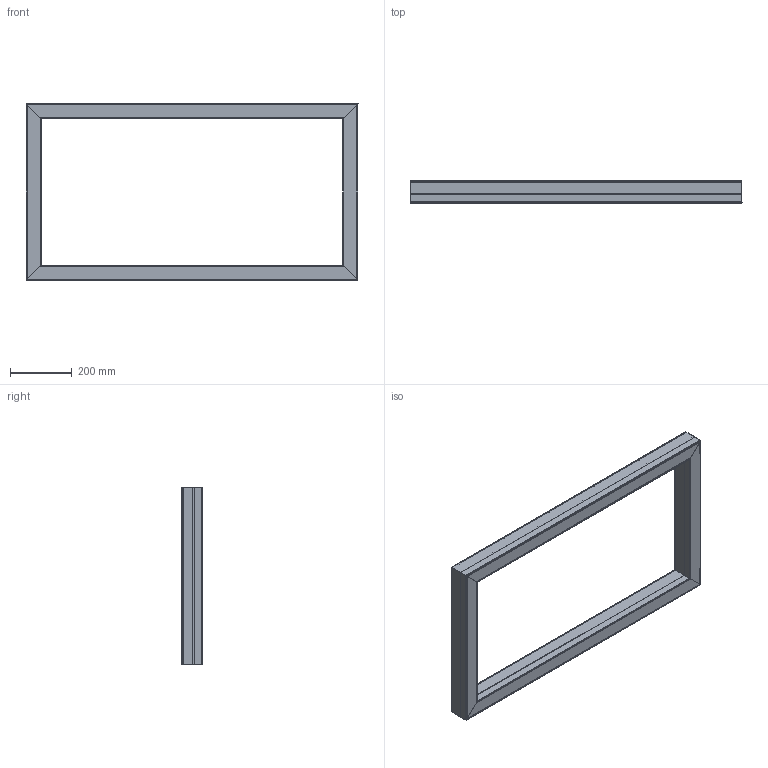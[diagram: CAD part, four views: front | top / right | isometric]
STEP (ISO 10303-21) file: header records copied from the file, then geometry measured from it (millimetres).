
FILE_DESCRIPTION(('STEP AP203'), '1');
FILE_NAME('Ìèêêî Ðåêîí 60Âò', '', ('UNSPECIFIED'), ('UNSPECIFIED'), 'ASCON STEP Converter 1.6', 'ASCON Math Kernel', '');
FILE_SCHEMA(('CONFIG_CONTROL_DESIGN'));
Length unit declared in the file: millimetre
Assembly tree (4 placements, depth 2):
  (unnamed)
    (unnamed)
    (unnamed)
    (unnamed)
    (unnamed)
Bounding box: 1071 x 70 x 571 mm (x, y, z)
Volume: 1338132.9 mm3; surface area: 2052902.6 mm2
Topology: 9 solids, 9 shells, 806 faces, 2359 edges, 1572 vertices
Faces by surface type: cylinder 464, plane 340, torus 2
Full cylindrical faces by diameter (mm): 8 x1, 10 x2, 14 x2
Entity records: 26816 total; most frequent: CARTESIAN_POINT 7589, ORIENTED_EDGE 4704, DIRECTION 3070, EDGE_CURVE 2352, VERTEX_POINT 1572, LINE 1420, VECTOR 1420, EDGE_LOOP 826
